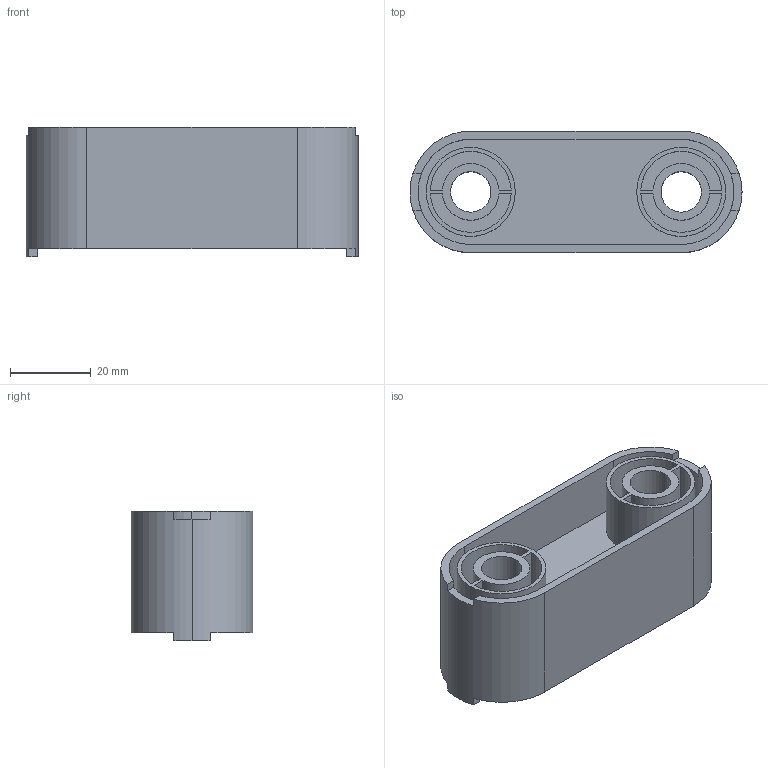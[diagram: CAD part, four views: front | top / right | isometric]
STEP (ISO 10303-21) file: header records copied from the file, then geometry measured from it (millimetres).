
FILE_DESCRIPTION (( 'STEP AP214' ), '1' );
FILE_NAME ('FGRD 30B.step', '2017-04-05T07:39:33', ( '' ), ( '' ), 'SwSTEP 2.0', 'SolidWorks 2015', '' );
FILE_SCHEMA (( 'AUTOMOTIVE_DESIGN' ));
Length unit declared in the file: millimetre
Products named in the file (1): FGRD 30B
Bounding box: 82 x 30 x 32 mm (x, y, z)
Volume: 23188.9 mm3; surface area: 27608.1 mm2
Topology: 1 solids, 1 shells, 89 faces, 225 edges, 150 vertices
Faces by surface type: plane 52, cylinder 37
Entity records: 2751 total; most frequent: DIRECTION 495, CARTESIAN_POINT 465, ORIENTED_EDGE 450, EDGE_CURVE 225, AXIS2_PLACEMENT_3D 180, VERTEX_POINT 150, LINE 135, VECTOR 135
